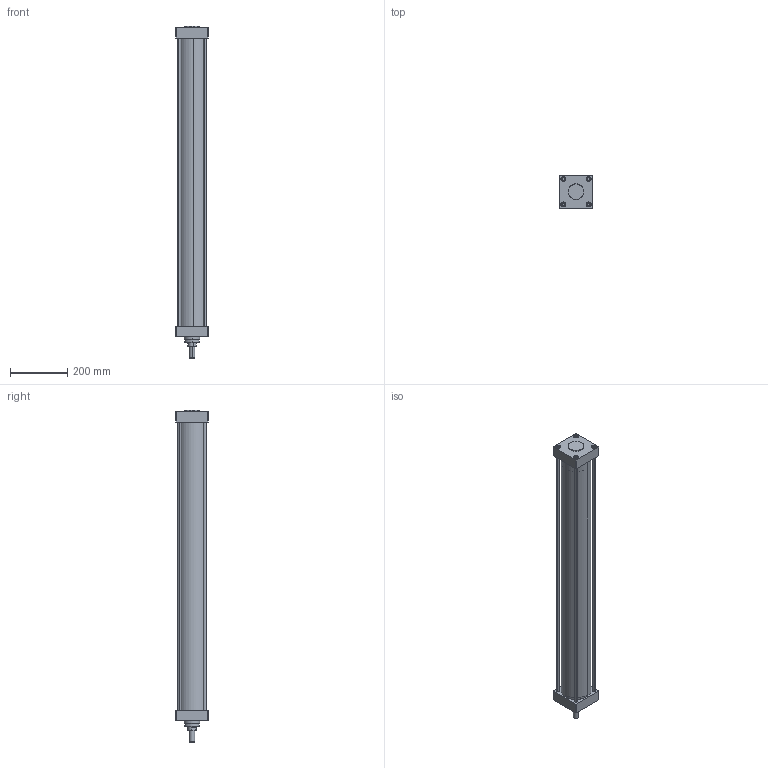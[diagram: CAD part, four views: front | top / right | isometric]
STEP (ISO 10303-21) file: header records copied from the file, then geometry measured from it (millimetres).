
FILE_DESCRIPTION (( 'STEP AP203' ), '1' );
FILE_NAME ('SC-CR-S-100X970-CYLINDER.STEP', '2016-10-31T15:41:22', ( 'user' ), ( '' ), 'SwSTEP 2.0', 'SolidWorks 2013', '' );
FILE_SCHEMA (( 'CONFIG_CONTROL_DESIGN' ));
Length unit declared in the file: millimetre
Products named in the file (8): SC-CR-S 100x970 SAPLAMA; SC-CR-S-100X970-CYLINDER; SC-CR-S 100 ARKA KAPAK ; SC-CR-S 100 烰 KAPAK ; SC-CR-S 100 ORTA PÝSTON ; SC-CR-S 100 CIVATA; SC-CR-S 100x970 BORU; SC-CR-S 100x970 Piston Mili
Assembly tree (17 placements, depth 2):
  SC-CR-S-100X970-CYLINDER
    SC-CR-S 100 ARKA KAPAK 
    SC-CR-S 100 烰 KAPAK 
    SC-CR-S 100 ORTA PÝSTON 
    SC-CR-S 100 CIVATA  x8
    SC-CR-S 100x970 BORU
    SC-CR-S 100x970 Piston Mili
    SC-CR-S 100x970 SAPLAMA  x4
Bounding box: 114 x 114 x 1161.5 mm (x, y, z)
Volume: 2958315.3 mm3; surface area: 1066408.5 mm2
Topology: 19 solids, 19 shells, 463 faces, 953 edges, 566 vertices
Faces by surface type: cylinder 158, cone 145, plane 140, torus 20
Entity records: 9109 total; most frequent: CARTESIAN_POINT 1630, DIRECTION 1500, ORIENTED_EDGE 1192, AXIS2_PLACEMENT_3D 631, EDGE_CURVE 596, VERTEX_POINT 364, EDGE_LOOP 340, CIRCLE 334
